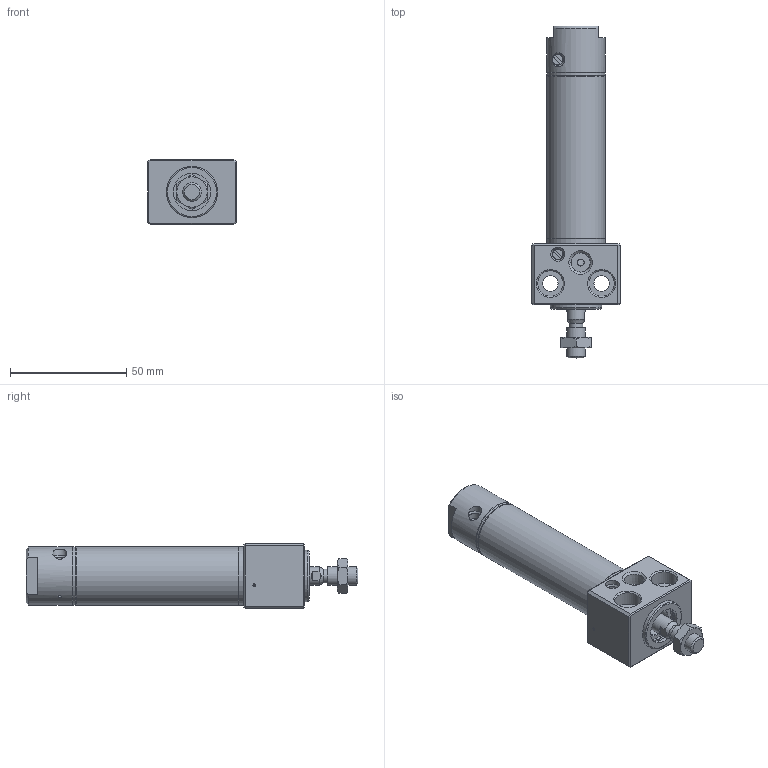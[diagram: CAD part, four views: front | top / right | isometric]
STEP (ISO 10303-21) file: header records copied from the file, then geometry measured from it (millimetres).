
FILE_DESCRIPTION((''),'2;1');
FILE_NAME('I:\3D電子目錄\氣缸\DBS\DBS\DBS20x25-C.stp','2007-10-08T08:30:39',('Administrator'),(''),'Autodesk Inventor 2008','Autodesk Inventor 2008','');
FILE_SCHEMA(('AUTOMOTIVE_DESIGN { 1 0 10303 214 1 1 1 1 }'));
Length unit declared in the file: millimetre
Products named in the file (1): DBS20x25-C
Bounding box: 38 x 142.6 x 28 mm (x, y, z)
Volume: 51050.9 mm3; surface area: 26761 mm2
Topology: 8 solids, 8 shells, 206 faces, 422 edges, 260 vertices
Faces by surface type: plane 91, cone 50, cylinder 49, bspline 13, torus 3
Full cylindrical faces by diameter (mm): 1.2 x1, 1.9 x2, 3 x3, 3.3 x2, 4.6 x2, 5 x3, 6 x4, 8 x3, 8.5 x1, 10 x1, 10.5 x2, 12 x3, 14.5 x2, 16 x2, 17 x1, 18 x2, 20 x1, 20.2 x2, 22 x1, 22.2 x6, 25 x4
Entity records: 5331 total; most frequent: CARTESIAN_POINT 1411, DIRECTION 818, ORIENTED_EDGE 632, AXIS2_PLACEMENT_3D 362, EDGE_LOOP 351, EDGE_CURVE 316, VERTEX_POINT 245, FACE_OUTER_BOUND 206
